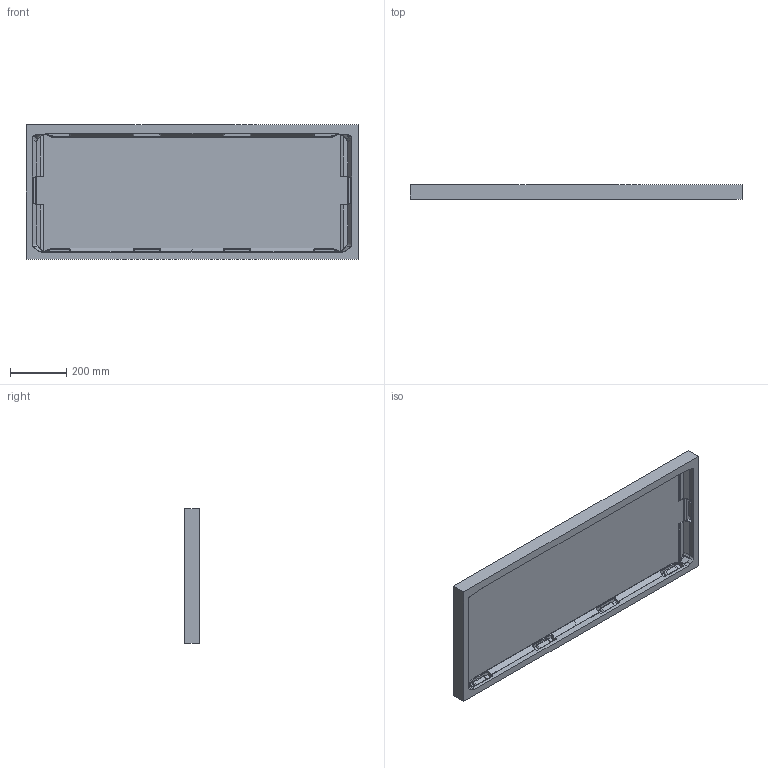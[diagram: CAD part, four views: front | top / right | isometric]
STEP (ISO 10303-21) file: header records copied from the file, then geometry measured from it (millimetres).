
FILE_DESCRIPTION (( 'STEP AP214' ), '1' );
FILE_NAME ('V730 PP TOP TUB 2-5-2024.STEP', '2024-02-15T18:42:50', ( '' ), ( '' ), 'SwSTEP 2.0', 'SolidWorks 2021', '' );
FILE_SCHEMA (( 'AUTOMOTIVE_DESIGN' ));
Length unit declared in the file: millimetre
Products named in the file (1): V730 PP TOP TUB 2-5-2024
Bounding box: 1184.63 x 51.5 x 478.66 mm (x, y, z)
Volume: 10367583.4 mm3; surface area: 1425216.9 mm2
Topology: 1 solids, 1 shells, 1058 faces, 2521 edges, 1454 vertices
Faces by surface type: bspline 520, cylinder 369, plane 135, sphere 26, cone 8
Entity records: 39938 total; most frequent: CARTESIAN_POINT 20011, ORIENTED_EDGE 5018, DIRECTION 3274, EDGE_CURVE 2509, VERTEX_POINT 1454, AXIS2_PLACEMENT_3D 1287, EDGE_LOOP 1059, FACE_OUTER_BOUND 1058
